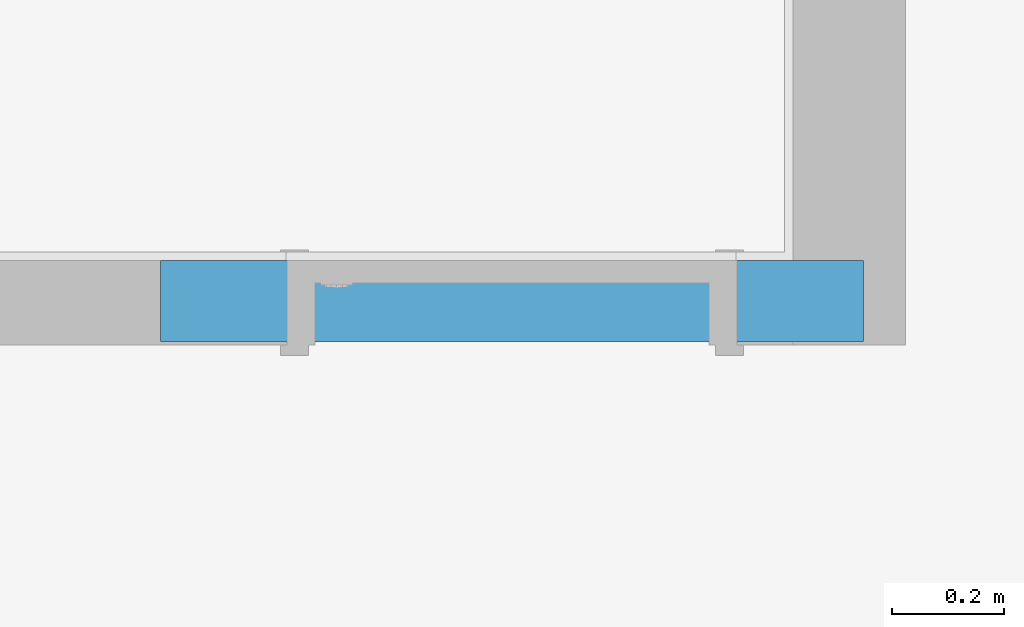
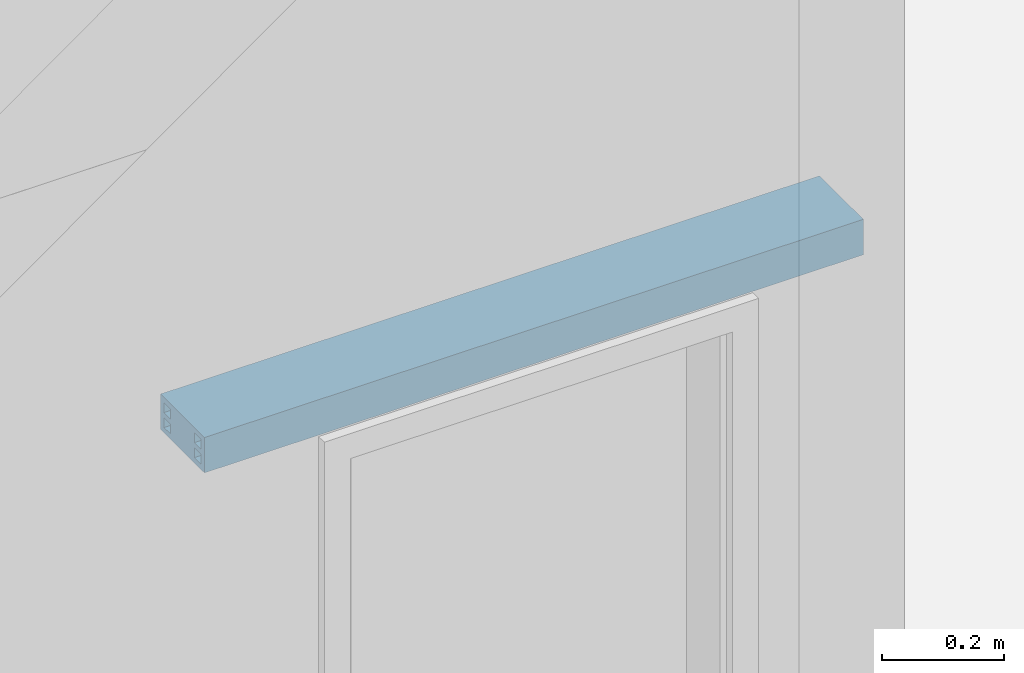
# One storey, part 1 of 21: 1 beam.
"""IFC4 building model written with IfcOpenShell, lengths in millimetres."""

from ifc_helpers import new_model, entity, si_unit, converted_unit, derived_unit, direction, frame, origin_with_axes, place, context, subcontext, project, spatial, polygons, source, transform, mapped, type_object, element, save


model = new_model("IFC4")

# Units and contexts
model_context = context("Model", 3, precision=0.01, world=origin_with_axes(), true_north=direction((0.0, 1.0)))
body_context = subcontext(model_context, "Body", "Model", "MODEL_VIEW")
ifc_project = project(units=[si_unit("LENGTHUNIT", "METRE", prefix="MILLI"), si_unit("AREAUNIT", "SQUARE_METRE"), si_unit("VOLUMEUNIT", "CUBIC_METRE"), converted_unit("PLANEANGLEUNIT", "DEGREE", entity("IfcPlaneAngleMeasure", 0.0174532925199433), si_unit("PLANEANGLEUNIT", "RADIAN"), dimensions=[0, 0, 0, 0, 0, 0, 0]), converted_unit("TIMEUNIT", "Year", entity("IfcTimeMeasure", 31557600.0), si_unit("TIMEUNIT", "SECOND"), dimensions=[0, 0, 1, 0, 0, 0, 0]), si_unit("MASSUNIT", "GRAM", prefix="KILO"), si_unit("THERMODYNAMICTEMPERATUREUNIT", "DEGREE_CELSIUS"), si_unit("LUMINOUSINTENSITYUNIT", "LUMEN"), si_unit("ENERGYUNIT", "JOULE", prefix="MEGA"), derived_unit("THERMALCONDUCTANCEUNIT", [(si_unit("POWERUNIT", "WATT"), 1), (si_unit("LENGTHUNIT", "METRE"), -1), (si_unit("THERMODYNAMICTEMPERATUREUNIT", "KELVIN"), -1)]), derived_unit("SPECIFICHEATCAPACITYUNIT", [(si_unit("ENERGYUNIT", "JOULE"), 1), (si_unit("MASSUNIT", "GRAM", prefix="KILO"), -1), (si_unit("THERMODYNAMICTEMPERATUREUNIT", "KELVIN"), -1)]), derived_unit("MASSDENSITYUNIT", [(si_unit("MASSUNIT", "GRAM", prefix="KILO"), 1), (si_unit("VOLUMEUNIT", "CUBIC_METRE"), -1)])], contexts=[model_context])

# Site, building, storey
site_placement = place(None, origin_with_axes())
site = spatial("IfcSite", under=ifc_project, at=site_placement, Name="Exteriér", CompositionType="ELEMENT")
building_placement = place(site_placement, origin_with_axes())
building = spatial("IfcBuilding", under=site, at=building_placement, Name="Univerzitní lezecké centrum", CompositionType="ELEMENT")
storey_placement = place(building_placement, frame((0.0, 0.0, -3350.0), z_axis=(0.0, 0.0, 1.0), x_axis=(1.0, 0.0, 0.0)))
storey = spatial("IfcBuildingStorey", under=building, at=storey_placement, Name="1.PP", CompositionType="ELEMENT", Elevation=-3350.0)

# Beam
beam_type = type_object("IfcBeamType", Name="PTH Překlad KP 11,5 a 14,5", PredefinedType="BEAM")
shared_shape = source(origin_with_axes(), body_context, "Body", "Tessellation", [
    polygons([(-625.0, 44.3486623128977, 71.00000000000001), (-625.0, 0.0, 71.00000000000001), (625.0, 0.0, 71.00000000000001), (625.0, 44.34866231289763, 71.00000000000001), (-625.0, 44.34866231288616, 36.49999605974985), (-625.0, 46.47223501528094, 31.73716465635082), (-625.0, 49.39641603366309, 27.4240948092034), (-625.0, 53.02998777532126, 23.69532943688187), (-625.0, 57.25960374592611, 20.66718452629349), (-625.0, 61.95332430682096, 18.4341207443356), (-625.0, 66.96473243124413, 17.06579680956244), (-625.0, 72.13750107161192, 16.60489654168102), (-625.0, 77.31026966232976, 17.06579737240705), (-625.0, 82.32167763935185, 18.43412185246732), (-625.0, 87.01539795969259, 20.66718614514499), (-625.0, 91.24501360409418, 23.69533151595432), (-625.0, 94.87858494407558, 27.42409728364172), (-625.0, 97.80276549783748, 31.7371674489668), (-625.0, 99.92633768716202, 36.49999908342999), (-625.0, 99.926337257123, 71.00000000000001), (-625.0, 144.274998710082, 71.0), (-625.0, 144.274998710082, 0.0), (-625.0, 0.0, 0.0), (-625.0, 11.4425, 10.49963740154), (-625.0, 33.3325, 10.49963740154), (-625.0, 33.3325, 30.49963740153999), (-625.0, 11.4425, 30.49963740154), (-625.0, 11.4425, 40.5), (-625.0, 33.3325, 40.5), (-625.0, 33.33250000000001, 60.5), (-625.0, 11.4425, 60.5), (-625.0, 132.83136377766, 10.49963740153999), (-625.0, 132.83136377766, 30.49963740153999), (-625.0, 110.94136377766, 30.49963740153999), (-625.0, 110.94136377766, 10.49963740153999), (-625.0, 110.94136377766, 60.49999999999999), (-625.0, 110.94136377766, 40.49999999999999), (-625.0, 132.83136377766, 40.49999999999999), (-625.0, 132.83136377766, 60.49999999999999), (625.0, 0.0, 0.0), (625.0, 144.2749987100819, 0.0), (625.0, 144.2749987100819, 71.0), (625.0, 99.92633725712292, 71.00000000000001), (625.0, 99.92633768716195, 36.49999908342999), (625.0, 97.80276549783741, 31.7371674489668), (625.0, 94.87858494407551, 27.42409728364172), (625.0, 91.24501360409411, 23.69533151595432), (625.0, 87.01539795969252, 20.66718614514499), (625.0, 82.32167763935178, 18.43412185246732), (625.0, 77.31026966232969, 17.06579737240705), (625.0, 72.13750107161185, 16.60489654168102), (625.0, 66.96473243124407, 17.06579680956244), (625.0, 61.95332430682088, 18.4341207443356), (625.0, 57.25960374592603, 20.66718452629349), (625.0, 53.02998777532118, 23.69532943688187), (625.0, 49.39641603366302, 27.4240948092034), (625.0, 46.47223501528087, 31.73716465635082), (625.0, 44.34866231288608, 36.49999605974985), (625.0, 11.44249999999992, 10.49963740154), (625.0, 11.44249999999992, 30.49963740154), (625.0, 33.33249999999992, 30.49963740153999), (625.0, 33.33249999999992, 10.49963740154), (625.0, 11.44249999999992, 40.5), (625.0, 11.44249999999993, 60.5), (625.0, 33.33249999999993, 60.5), (625.0, 33.33249999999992, 40.5), (625.0, 132.8313637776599, 10.49963740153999), (625.0, 110.9413637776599, 10.49963740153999), (625.0, 110.9413637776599, 30.49963740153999), (625.0, 132.8313637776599, 30.49963740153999), (625.0, 110.9413637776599, 60.49999999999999), (625.0, 132.8313637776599, 60.49999999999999), (625.0, 132.8313637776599, 40.49999999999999), (625.0, 110.9413637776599, 40.49999999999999)], [[[1, 2, 3, 4]], [[1, 5, 6, 7, 8, 9, 10, 11, 12, 13, 14, 15, 16, 17, 18, 19, 20, 21, 22, 23, 2], [24, 25, 26, 27], [28, 29, 30, 31], [32, 33, 34, 35], [36, 37, 38, 39]], [[2, 23, 40, 3]], [[4, 3, 40, 41, 42, 43, 44, 45, 46, 47, 48, 49, 50, 51, 52, 53, 54, 55, 56, 57, 58], [59, 60, 61, 62], [63, 64, 65, 66], [67, 68, 69, 70], [71, 72, 73, 74]], [[5, 1, 4, 58]], [[6, 5, 58, 57]], [[7, 6, 57, 56]], [[8, 7, 56, 55]], [[9, 8, 55, 54]], [[10, 9, 54, 53]], [[11, 10, 53, 52]], [[12, 11, 52, 51]], [[13, 12, 51, 50]], [[14, 13, 50, 49]], [[15, 14, 49, 48]], [[16, 15, 48, 47]], [[17, 16, 47, 46]], [[18, 17, 46, 45]], [[19, 18, 45, 44]], [[20, 19, 44, 43]], [[21, 20, 43, 42]], [[22, 21, 42, 41]], [[23, 22, 41, 40]], [[25, 24, 59, 62]], [[26, 25, 62, 61]], [[27, 26, 61, 60]], [[24, 27, 60, 59]], [[29, 28, 63, 66]], [[30, 29, 66, 65]], [[31, 30, 65, 64]], [[28, 31, 64, 63]], [[33, 32, 67, 70]], [[34, 33, 70, 69]], [[35, 34, 69, 68]], [[32, 35, 68, 67]], [[37, 36, 71, 74]], [[38, 37, 74, 73]], [[39, 38, 73, 72]], [[36, 39, 72, 71]]], closed=True),
    polygons([(-625.0, 44.34866231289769, 36.5), (-625.0, 46.47223492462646, 31.73716874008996), (625.0, 46.47223492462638, 31.73716874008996), (625.0, 44.34866231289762, 36.5), (-625.0, 44.3486623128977, 71.00000000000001), (-625.0, 99.926337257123, 71.00000000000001), (-625.0, 99.92633725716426, 36.50000000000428), (-625.0, 97.80276464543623, 31.7371687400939), (-625.0, 94.87858377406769, 27.42409899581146), (-625.0, 91.24501222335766, 23.69533367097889), (-625.0, 87.0153964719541, 20.66718874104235), (-625.0, 82.32167614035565, 18.43412486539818), (-625.0, 77.31026823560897, 17.06580075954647), (-625.0, 72.1374997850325, 16.60490024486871), (-625.0, 66.96473133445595, 17.06580075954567), (-625.0, 61.95332342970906, 18.4341248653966), (-625.0, 57.25960309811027, 20.66718874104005), (-625.0, 53.02998734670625, 23.69533367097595), (-625.0, 49.39641579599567, 27.42409899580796), (-625.0, 78.10749978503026, 42.49999925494), (-625.0, 78.01680207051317, 43.54188832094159), (-625.0, 77.74746473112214, 44.55212011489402), (-625.0, 77.30767144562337, 45.49999925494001), (-625.0, 76.71078511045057, 46.35672491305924), (-625.0, 75.97494181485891, 47.09626591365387), (-625.0, 75.12249978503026, 47.69615167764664), (-625.0, 74.17936004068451, 48.13815497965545), (-625.0, 73.17417940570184, 48.40884577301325), (-625.0, 72.13749978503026, 48.49999925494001), (-625.0, 71.1008201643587, 48.40884577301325), (-625.0, 70.09563952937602, 48.13815497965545), (-625.0, 69.15249978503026, 47.69615167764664), (-625.0, 68.30005775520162, 47.09626591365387), (-625.0, 67.56421445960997, 46.35672491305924), (-625.0, 66.96732812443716, 45.49999925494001), (-625.0, 66.5275348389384, 44.55212011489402), (-625.0, 66.25819749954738, 43.54188832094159), (-625.0, 66.16749978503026, 42.49999925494), (-625.0, 66.25819749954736, 41.45811018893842), (-625.0, 66.52753483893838, 40.44787839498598), (-625.0, 66.96732812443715, 39.49999925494), (-625.0, 67.56421445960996, 38.64327359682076), (-625.0, 68.3000577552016, 37.90373259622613), (-625.0, 69.15249978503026, 37.30384683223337), (-625.0, 70.09563952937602, 36.86184353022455), (-625.0, 71.1008201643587, 36.59115273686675), (-625.0, 72.13749978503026, 36.49999925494), (-625.0, 73.17417940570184, 36.59115273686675), (-625.0, 74.17936004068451, 36.86184353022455), (-625.0, 75.12249978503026, 37.30384683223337), (-625.0, 75.9749418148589, 37.90373259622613), (-625.0, 76.71078511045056, 38.64327359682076), (-625.0, 77.30767144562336, 39.49999925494), (-625.0, 77.74746473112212, 40.44787839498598), (-625.0, 78.01680207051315, 41.45811018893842), (625.0, 49.39641579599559, 27.42409899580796), (625.0, 53.02998734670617, 23.69533367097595), (625.0, 57.25960309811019, 20.66718874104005), (625.0, 61.95332342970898, 18.4341248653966), (625.0, 66.96473133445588, 17.06580075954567), (625.0, 72.13749978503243, 16.60490024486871), (625.0, 77.3102682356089, 17.06580075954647), (625.0, 82.32167614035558, 18.43412486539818), (625.0, 87.01539647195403, 20.66718874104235), (625.0, 91.24501222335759, 23.69533367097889), (625.0, 94.87858377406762, 27.42409899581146), (625.0, 97.80276464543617, 31.7371687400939), (625.0, 99.92633725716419, 36.50000000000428), (625.0, 99.92633725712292, 71.00000000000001), (625.0, 44.34866231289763, 71.00000000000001), (625.0, 78.10749978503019, 42.49999925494), (625.0, 78.01680207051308, 41.45811018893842), (625.0, 77.74746473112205, 40.44787839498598), (625.0, 77.30767144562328, 39.49999925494), (625.0, 76.71078511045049, 38.64327359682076), (625.0, 75.97494181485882, 37.90373259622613), (625.0, 75.12249978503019, 37.30384683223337), (625.0, 74.17936004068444, 36.86184353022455), (625.0, 73.17417940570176, 36.59115273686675), (625.0, 72.13749978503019, 36.49999925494), (625.0, 71.10082016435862, 36.59115273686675), (625.0, 70.09563952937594, 36.86184353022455), (625.0, 69.15249978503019, 37.30384683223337), (625.0, 68.30005775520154, 37.90373259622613), (625.0, 67.56421445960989, 38.64327359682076), (625.0, 66.96732812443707, 39.49999925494), (625.0, 66.52753483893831, 40.44787839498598), (625.0, 66.2581974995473, 41.45811018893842), (625.0, 66.16749978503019, 42.49999925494), (625.0, 66.25819749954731, 43.54188832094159), (625.0, 66.52753483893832, 44.55212011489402), (625.0, 66.96732812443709, 45.49999925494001), (625.0, 67.5642144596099, 46.35672491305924), (625.0, 68.30005775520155, 47.09626591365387), (625.0, 69.15249978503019, 47.69615167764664), (625.0, 70.09563952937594, 48.13815497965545), (625.0, 71.10082016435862, 48.40884577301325), (625.0, 72.13749978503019, 48.49999925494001), (625.0, 73.17417940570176, 48.40884577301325), (625.0, 74.17936004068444, 48.13815497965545), (625.0, 75.12249978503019, 47.69615167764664), (625.0, 75.97494181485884, 47.09626591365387), (625.0, 76.7107851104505, 46.35672491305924), (625.0, 77.3076714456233, 45.49999925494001), (625.0, 77.74746473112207, 44.55212011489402), (625.0, 78.0168020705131, 43.54188832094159)], [[[1, 2, 3, 4]], [[1, 5, 6, 7, 8, 9, 10, 11, 12, 13, 14, 15, 16, 17, 18, 19, 2], [20, 21, 22, 23, 24, 25, 26, 27, 28, 29, 30, 31, 32, 33, 34, 35, 36, 37, 38, 39, 40, 41, 42, 43, 44, 45, 46, 47, 48, 49, 50, 51, 52, 53, 54, 55]], [[2, 19, 56, 3]], [[4, 3, 56, 57, 58, 59, 60, 61, 62, 63, 64, 65, 66, 67, 68, 69, 70], [71, 72, 73, 74, 75, 76, 77, 78, 79, 80, 81, 82, 83, 84, 85, 86, 87, 88, 89, 90, 91, 92, 93, 94, 95, 96, 97, 98, 99, 100, 101, 102, 103, 104, 105, 106]], [[5, 1, 4, 70]], [[6, 5, 70, 69]], [[7, 6, 69, 68]], [[8, 7, 68, 67]], [[9, 8, 67, 66]], [[10, 9, 66, 65]], [[11, 10, 65, 64]], [[12, 11, 64, 63]], [[13, 12, 63, 62]], [[14, 13, 62, 61]], [[15, 14, 61, 60]], [[16, 15, 60, 59]], [[17, 16, 59, 58]], [[18, 17, 58, 57]], [[19, 18, 57, 56]], [[21, 20, 71, 106]], [[22, 21, 106, 105]], [[23, 22, 105, 104]], [[24, 23, 104, 103]], [[25, 24, 103, 102]], [[26, 25, 102, 101]], [[27, 26, 101, 100]], [[28, 27, 100, 99]], [[29, 28, 99, 98]], [[30, 29, 98, 97]], [[31, 30, 97, 96]], [[32, 31, 96, 95]], [[33, 32, 95, 94]], [[34, 33, 94, 93]], [[35, 34, 93, 92]], [[36, 35, 92, 91]], [[37, 36, 91, 90]], [[38, 37, 90, 89]], [[39, 38, 89, 88]], [[40, 39, 88, 87]], [[41, 40, 87, 86]], [[42, 41, 86, 85]], [[43, 42, 85, 84]], [[44, 43, 84, 83]], [[45, 44, 83, 82]], [[46, 45, 82, 81]], [[47, 46, 81, 80]], [[48, 47, 80, 79]], [[49, 48, 79, 78]], [[50, 49, 78, 77]], [[51, 50, 77, 76]], [[52, 51, 76, 75]], [[53, 52, 75, 74]], [[54, 53, 74, 73]], [[55, 54, 73, 72]], [[20, 55, 72, 71]]], closed=True),
    polygons([(-625.0, 66.16749978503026, 42.49999925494), (-625.0, 66.25819749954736, 41.45811018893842), (625.0, 66.2581974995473, 41.45811018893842), (625.0, 66.16749978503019, 42.49999925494), (-625.0, 66.25819749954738, 43.54188832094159), (-625.0, 66.5275348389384, 44.55212011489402), (-625.0, 66.96732812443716, 45.49999925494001), (-625.0, 67.56421445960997, 46.35672491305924), (-625.0, 68.30005775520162, 47.09626591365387), (-625.0, 69.15249978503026, 47.69615167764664), (-625.0, 70.09563952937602, 48.13815497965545), (-625.0, 71.1008201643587, 48.40884577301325), (-625.0, 72.13749978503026, 48.49999925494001), (-625.0, 73.17417940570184, 48.40884577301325), (-625.0, 74.17936004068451, 48.13815497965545), (-625.0, 75.12249978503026, 47.69615167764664), (-625.0, 75.97494181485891, 47.09626591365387), (-625.0, 76.71078511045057, 46.35672491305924), (-625.0, 77.30767144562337, 45.49999925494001), (-625.0, 77.74746473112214, 44.55212011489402), (-625.0, 78.01680207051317, 43.54188832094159), (-625.0, 78.10749978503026, 42.49999925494), (-625.0, 78.01680207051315, 41.45811018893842), (-625.0, 77.74746473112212, 40.44787839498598), (-625.0, 77.30767144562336, 39.49999925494), (-625.0, 76.71078511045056, 38.64327359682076), (-625.0, 75.9749418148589, 37.90373259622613), (-625.0, 75.12249978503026, 37.30384683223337), (-625.0, 74.17936004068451, 36.86184353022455), (-625.0, 73.17417940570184, 36.59115273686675), (-625.0, 72.13749978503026, 36.49999925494), (-625.0, 71.1008201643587, 36.59115273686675), (-625.0, 70.09563952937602, 36.86184353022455), (-625.0, 69.15249978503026, 37.30384683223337), (-625.0, 68.3000577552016, 37.90373259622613), (-625.0, 67.56421445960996, 38.64327359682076), (-625.0, 66.96732812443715, 39.49999925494), (-625.0, 66.52753483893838, 40.44787839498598), (625.0, 66.52753483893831, 40.44787839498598), (625.0, 66.96732812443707, 39.49999925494), (625.0, 67.56421445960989, 38.64327359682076), (625.0, 68.30005775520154, 37.90373259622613), (625.0, 69.15249978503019, 37.30384683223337), (625.0, 70.09563952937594, 36.86184353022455), (625.0, 71.10082016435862, 36.59115273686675), (625.0, 72.13749978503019, 36.49999925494), (625.0, 73.17417940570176, 36.59115273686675), (625.0, 74.17936004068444, 36.86184353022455), (625.0, 75.12249978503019, 37.30384683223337), (625.0, 75.97494181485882, 37.90373259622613), (625.0, 76.71078511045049, 38.64327359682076), (625.0, 77.30767144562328, 39.49999925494), (625.0, 77.74746473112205, 40.44787839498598), (625.0, 78.01680207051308, 41.45811018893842), (625.0, 78.10749978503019, 42.49999925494), (625.0, 78.0168020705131, 43.54188832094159), (625.0, 77.74746473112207, 44.55212011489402), (625.0, 77.3076714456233, 45.49999925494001), (625.0, 76.7107851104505, 46.35672491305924), (625.0, 75.97494181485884, 47.09626591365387), (625.0, 75.12249978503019, 47.69615167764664), (625.0, 74.17936004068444, 48.13815497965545), (625.0, 73.17417940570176, 48.40884577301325), (625.0, 72.13749978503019, 48.49999925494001), (625.0, 71.10082016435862, 48.40884577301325), (625.0, 70.09563952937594, 48.13815497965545), (625.0, 69.15249978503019, 47.69615167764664), (625.0, 68.30005775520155, 47.09626591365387), (625.0, 67.5642144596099, 46.35672491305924), (625.0, 66.96732812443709, 45.49999925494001), (625.0, 66.52753483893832, 44.55212011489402), (625.0, 66.25819749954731, 43.54188832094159)], [[[1, 2, 3, 4]], [[1, 5, 6, 7, 8, 9, 10, 11, 12, 13, 14, 15, 16, 17, 18, 19, 20, 21, 22, 23, 24, 25, 26, 27, 28, 29, 30, 31, 32, 33, 34, 35, 36, 37, 38, 2]], [[2, 38, 39, 3]], [[4, 3, 39, 40, 41, 42, 43, 44, 45, 46, 47, 48, 49, 50, 51, 52, 53, 54, 55, 56, 57, 58, 59, 60, 61, 62, 63, 64, 65, 66, 67, 68, 69, 70, 71, 72]], [[5, 1, 4, 72]], [[6, 5, 72, 71]], [[7, 6, 71, 70]], [[8, 7, 70, 69]], [[9, 8, 69, 68]], [[10, 9, 68, 67]], [[11, 10, 67, 66]], [[12, 11, 66, 65]], [[13, 12, 65, 64]], [[14, 13, 64, 63]], [[15, 14, 63, 62]], [[16, 15, 62, 61]], [[17, 16, 61, 60]], [[18, 17, 60, 59]], [[19, 18, 59, 58]], [[20, 19, 58, 57]], [[21, 20, 57, 56]], [[22, 21, 56, 55]], [[23, 22, 55, 54]], [[24, 23, 54, 53]], [[25, 24, 53, 52]], [[26, 25, 52, 51]], [[27, 26, 51, 50]], [[28, 27, 50, 49]], [[29, 28, 49, 48]], [[30, 29, 48, 47]], [[31, 30, 47, 46]], [[32, 31, 46, 45]], [[33, 32, 45, 44]], [[34, 33, 44, 43]], [[35, 34, 43, 42]], [[36, 35, 42, 41]], [[37, 36, 41, 40]], [[38, 37, 40, 39]]], closed=True),
])
beam_placement = place(storey_placement, frame((-2649.935045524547, -3699.999999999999, 2030.0), z_axis=(0.0, 0.0, 1.0), x_axis=(-1.0, 0.0, 0.0)))
element("IfcBeam", 1, at=beam_placement, inside=storey, type_object=beam_type, Name="Pk01", PredefinedType="BEAM", context=body_context, shape_type="MappedRepresentation", body=[
    mapped(shared_shape, transform((0.0, 0.0, 0.0))),
])

save(model, "model.ifc")
